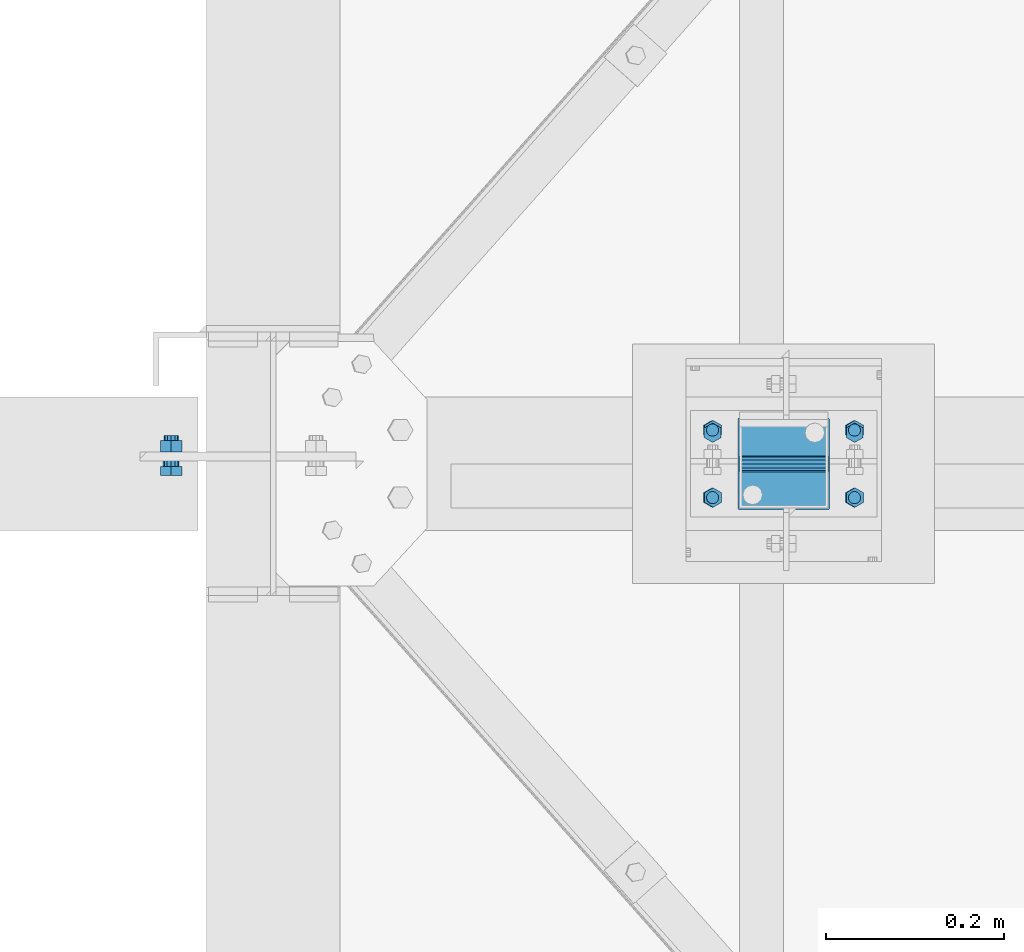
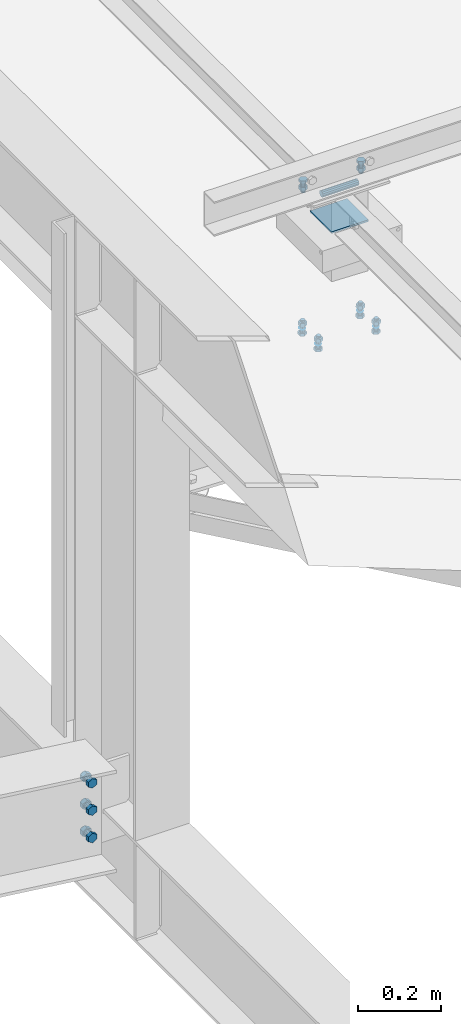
# One storey, part 323 of 3134: 6 mechanical fasteners, 5 elements without a shape of their own.
"""IFC2X3 building model written with IfcOpenShell, lengths in millimetres."""

from ifc_helpers import new_model, si_unit, frame, origin_with_axes, place, context, subcontext, project, spatial, faceted_brep, source, transform, mapped, material, type_object, element, aggregate, save


model = new_model("IFC2X3")

# Units and contexts
model_context = context("Model", 3, precision=1e-05, world=origin_with_axes())
body_context = subcontext(model_context, "Body", "Model", "MODEL_VIEW")
ifc_project = project(units=[si_unit("LENGTHUNIT", "METRE", prefix="MILLI"), si_unit("AREAUNIT", "SQUARE_METRE"), si_unit("VOLUMEUNIT", "CUBIC_METRE"), si_unit("MASSUNIT", "GRAM", prefix="KILO"), si_unit("TIMEUNIT", "SECOND"), si_unit("PLANEANGLEUNIT", "RADIAN"), si_unit("SOLIDANGLEUNIT", "STERADIAN"), si_unit("THERMODYNAMICTEMPERATUREUNIT", "DEGREE_CELSIUS"), si_unit("LUMINOUSINTENSITYUNIT", "LUMEN")], contexts=[model_context])

# Site, building, storey
site_placement = place(None, origin_with_axes())
site = spatial("IfcSite", under=ifc_project, at=site_placement, CompositionType="ELEMENT")
building_placement = place(site_placement, origin_with_axes())
building = spatial("IfcBuilding", under=site, at=building_placement, Name="Undefined", CompositionType="ELEMENT")
storey_placement = place(building_placement, origin_with_axes())
storey = spatial("IfcBuildingStorey", under=building, at=storey_placement, Name="Undefined", CompositionType="ELEMENT", Elevation=0.0)

# Assembly, mechanical fastener
assembly_1_placement = place(storey_placement, origin_with_axes())
assembly_1 = element("IfcElementAssembly", 1, at=assembly_1_placement, inside=storey, AssemblyPlace="NOTDEFINED", PredefinedType="RIGID_FRAME")
ifc_material_1 = material(Name="8.8")
mechanical_fastener_type = type_object("IfcMechanicalFastenerType", Name="Bolt assembly")
shared_shape_1 = source(origin_with_axes(), body_context, "Body", "Brep", [
    faceted_brep([(10.9696551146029, -14.0, 0.0), (5.48482755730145, -14.0, 9.5), (-5.48482755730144, -14.0, 9.5), (-10.9696551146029, -14.0, 1.34339530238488e-15), (-5.48482755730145, -14.0, -9.5), (5.48482755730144, -14.0, -9.50000000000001), (5.48482755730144, -6.0, -9.50000000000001), (-5.48482755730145, -6.0, -9.5), (-10.9696551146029, -6.0, 1.34339530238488e-15), (-5.48482755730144, -6.0, 9.5), (5.48482755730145, -6.0, 9.5), (10.9696551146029, -6.0, 0.0), (6.0, -6.0, 0.0), (5.19615242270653, -6.0, 3.00000000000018), (2.99999999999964, -6.0, 5.19615242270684), (-6.21801588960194e-13, -6.0, 6.0), (-3.00000000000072, -6.0, 5.19615242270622), (-5.19615242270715, -6.0, 2.9999999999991), (-6.0, -6.0, -1.24360317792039e-12), (-5.19615242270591, -6.0, -3.00000000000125), (-2.99999999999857, -6.0, -5.19615242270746), (1.85874342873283e-12, -6.0, -6.0), (3.00000000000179, -6.0, -5.1961524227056), (5.19615242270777, -6.0, -2.99999999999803), (5.19615242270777, 24.0, -2.99999999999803), (3.00000000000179, 24.0, -5.1961524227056), (1.85874342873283e-12, 24.0, -6.0), (-2.99999999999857, 24.0, -5.19615242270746), (-5.19615242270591, 24.0, -3.00000000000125), (-6.0, 24.0, -1.24360317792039e-12), (-5.19615242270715, 24.0, 2.9999999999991), (-3.00000000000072, 24.0, 5.19615242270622), (-6.21801588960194e-13, 24.0, 6.0), (2.99999999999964, 24.0, 5.19615242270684), (5.19615242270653, 24.0, 3.00000000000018), (6.0, 24.0, 0.0), (10.9696551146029, 6.00000000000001, 0.0), (5.48482755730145, 6.00000000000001, 9.5), (-5.48482755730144, 6.00000000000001, 9.5), (-10.9696551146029, 6.00000000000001, 1.34339530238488e-15), (-5.48482755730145, 6.00000000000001, -9.5), (5.48482755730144, 6.00000000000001, -9.50000000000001), (5.48482755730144, 16.0, -9.50000000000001), (-5.48482755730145, 16.0, -9.5), (-10.9696551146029, 16.0, 1.34339530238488e-15), (-5.48482755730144, 16.0, 9.5), (5.48482755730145, 16.0, 9.5), (10.9696551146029, 16.0, 0.0)], [[[0, 1, 2, 3, 4, 5]], [[6, 7, 8, 9, 10, 11]], [[0, 11, 10, 1]], [[1, 10, 9, 2]], [[2, 9, 8, 3]], [[3, 8, 7, 4]], [[4, 7, 6, 5]], [[5, 6, 11, 0]], [[12, 13, 14, 15, 16, 17, 18, 19, 20, 21, 22, 23]], [[24, 25, 26, 27, 28, 29, 30, 31, 32, 33, 34, 35]], [[12, 35, 34, 13]], [[13, 34, 33, 14]], [[14, 33, 32, 15]], [[15, 32, 31, 16]], [[16, 31, 30, 17]], [[17, 30, 29, 18]], [[18, 29, 28, 19]], [[19, 28, 27, 20]], [[20, 27, 26, 21]], [[21, 26, 25, 22]], [[22, 25, 24, 23]], [[23, 24, 35, 12]], [[36, 37, 38, 39, 40, 41]], [[42, 43, 44, 45, 46, 47]], [[36, 47, 46, 37]], [[37, 46, 45, 38]], [[38, 45, 44, 39]], [[39, 44, 43, 40]], [[40, 43, 42, 41]], [[41, 42, 47, 36]]]),
    faceted_brep([(7.0, -0.1, 0.0), (6.06217782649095, -0.1, 3.50000000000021), (3.49999999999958, -0.1, 6.06217782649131), (-7.25435187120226e-13, -0.1, 7.0), (-3.50000000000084, -0.1, 6.06217782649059), (-6.06217782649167, -0.1, 3.49999999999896), (-7.0, -0.1, -1.45087037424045e-12), (-6.06217782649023, -0.1, -3.50000000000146), (-3.49999999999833, -0.1, -6.06217782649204), (2.1685340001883e-12, -0.1, -7.0), (3.50000000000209, -0.1, -6.06217782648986), (6.0621778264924, -0.1, -3.4999999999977), (6.0621778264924, 6.00000000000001, -3.4999999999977), (3.50000000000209, 6.00000000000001, -6.06217782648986), (2.1685340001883e-12, 6.00000000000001, -7.0), (-3.49999999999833, 6.00000000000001, -6.06217782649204), (-6.06217782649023, 6.00000000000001, -3.50000000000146), (-7.0, 6.00000000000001, -1.45087037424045e-12), (-6.06217782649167, 6.00000000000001, 3.49999999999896), (-3.50000000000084, 6.00000000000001, 6.06217782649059), (-7.25435187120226e-13, 6.00000000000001, 7.0), (3.49999999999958, 6.00000000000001, 6.06217782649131), (6.06217782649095, 6.00000000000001, 3.50000000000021), (7.0, 6.00000000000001, 0.0), (7.0, -5.9, 0.0), (6.06217782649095, -5.9, 3.50000000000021), (3.49999999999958, -5.9, 6.06217782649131), (-7.25435187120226e-13, -5.9, 7.0), (-3.50000000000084, -5.9, 6.06217782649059), (-6.06217782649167, -5.9, 3.49999999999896), (-7.0, -5.9, -1.45087037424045e-12), (-6.06217782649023, -5.9, -3.50000000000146), (-3.49999999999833, -5.9, -6.06217782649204), (2.1685340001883e-12, -5.9, -7.0), (3.50000000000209, -5.9, -6.06217782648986), (6.0621778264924, -5.9, -3.4999999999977), (6.0621778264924, 0.0999999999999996, -3.4999999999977), (3.50000000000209, 0.0999999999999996, -6.06217782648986), (2.1685340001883e-12, 0.0999999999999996, -7.0), (-3.49999999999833, 0.0999999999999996, -6.06217782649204), (-6.06217782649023, 0.0999999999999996, -3.50000000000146), (-7.0, 0.0999999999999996, -1.45087037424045e-12), (-6.06217782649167, 0.0999999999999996, 3.49999999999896), (-3.50000000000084, 0.0999999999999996, 6.06217782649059), (-7.25435187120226e-13, 0.0999999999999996, 7.0), (3.49999999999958, 0.0999999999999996, 6.06217782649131), (6.06217782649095, 0.0999999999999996, 3.50000000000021), (7.0, 0.0999999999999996, 0.0)], [[[0, 1, 2, 3, 4, 5, 6, 7, 8, 9, 10, 11]], [[12, 13, 14, 15, 16, 17, 18, 19, 20, 21, 22, 23]], [[0, 23, 22, 1]], [[1, 22, 21, 2]], [[2, 21, 20, 3]], [[3, 20, 19, 4]], [[4, 19, 18, 5]], [[5, 18, 17, 6]], [[6, 17, 16, 7]], [[7, 16, 15, 8]], [[8, 15, 14, 9]], [[9, 14, 13, 10]], [[10, 13, 12, 11]], [[11, 12, 23, 0]], [[24, 25, 26, 27, 28, 29, 30, 31, 32, 33, 34, 35]], [[36, 37, 38, 39, 40, 41, 42, 43, 44, 45, 46, 47]], [[24, 47, 46, 25]], [[25, 46, 45, 26]], [[26, 45, 44, 27]], [[27, 44, 43, 28]], [[28, 43, 42, 29]], [[29, 42, 41, 30]], [[30, 41, 40, 31]], [[31, 40, 39, 32]], [[32, 39, 38, 33]], [[33, 38, 37, 34]], [[34, 37, 36, 35]], [[35, 36, 47, 24]]]),
])
mechanical_fastener_1_placement = place(assembly_1_placement, frame((68125.0, 10045.0, 5850.0), z_axis=(1.0, 0.0, 0.0), x_axis=(0.0, -1.0, 0.0)))
mechanical_fastener_1 = element("IfcMechanicalFastener", 2, at=mechanical_fastener_1_placement, type_object=mechanical_fastener_type, material=ifc_material_1, Name="Bolt assembly", NominalDiameter=12.0, NominalLength=30.0, context=body_context, shape_type="MappedRepresentation", body=[
    mapped(shared_shape_1, transform((0.0, -5.32963895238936e-10, -79.9999999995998))),
    mapped(shared_shape_1, transform((0.0, 5.3114490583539e-10, 79.9999999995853))),
])
aggregate(assembly_1, [mechanical_fastener_1])

assembly_2_placement = place(storey_placement, origin_with_axes())
assembly_2 = element("IfcElementAssembly", 3, at=assembly_2_placement, inside=storey, Name="300", AssemblyPlace="NOTDEFINED", PredefinedType="RIGID_FRAME")
shared_shape_2 = source(origin_with_axes(), body_context, "Body", "Brep", [
    faceted_brep([(13.856406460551, -13.0499999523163, 0.0), (6.92820323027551, -13.0499999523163, 12.0), (-6.92820323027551, -13.0499999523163, 12.0), (-13.856406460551, -13.0499999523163, 1.69692038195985e-15), (-6.92820323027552, -13.0499999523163, -12.0), (6.9282032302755, -13.0499999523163, -12.0), (6.9282032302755, -3.04999995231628, -12.0), (-6.92820323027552, -3.04999995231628, -12.0), (-13.856406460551, -3.04999995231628, 1.69692038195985e-15), (-6.92820323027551, -3.04999995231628, 12.0), (6.92820323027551, -3.04999995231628, 12.0), (13.856406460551, -3.04999995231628, 0.0), (8.0, -3.04999995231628, 0.0), (6.92820323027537, -3.04999995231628, 4.00000000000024), (3.99999999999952, -3.04999995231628, 6.92820323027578), (-8.29068785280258e-13, -3.04999995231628, 8.0), (-4.00000000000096, -3.04999995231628, 6.92820323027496), (-6.9282032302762, -3.04999995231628, 3.99999999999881), (-8.0, -3.04999995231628, -1.65813757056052e-12), (-6.92820323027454, -3.04999995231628, -4.00000000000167), (-3.99999999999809, -3.04999995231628, -6.92820323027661), (2.47832457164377e-12, -3.04999995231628, -8.0), (4.00000000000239, -3.04999995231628, -6.92820323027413), (6.92820323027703, -3.04999995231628, -3.99999999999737), (6.92820323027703, 31.9500000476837, -3.99999999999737), (4.00000000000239, 31.9500000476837, -6.92820323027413), (2.47832457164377e-12, 31.9500000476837, -8.0), (-3.99999999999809, 31.9500000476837, -6.92820323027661), (-6.92820323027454, 31.9500000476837, -4.00000000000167), (-8.0, 31.9500000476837, -1.65813757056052e-12), (-6.9282032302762, 31.9500000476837, 3.99999999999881), (-4.00000000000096, 31.9500000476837, 6.92820323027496), (-8.29068785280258e-13, 31.9500000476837, 8.0), (3.99999999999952, 31.9500000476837, 6.92820323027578), (6.92820323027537, 31.9500000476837, 4.00000000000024), (8.0, 31.9500000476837, 0.0), (13.856406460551, 13.0500000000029, 0.0), (6.92820323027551, 13.0500000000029, 12.0), (-6.92820323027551, 13.0500000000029, 12.0), (-13.856406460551, 13.0500000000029, 1.69692038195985e-15), (-6.92820323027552, 13.0500000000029, -12.0), (6.9282032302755, 13.0500000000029, -12.0), (6.9282032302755, 26.0500000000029, -12.0), (-6.92820323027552, 26.0500000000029, -12.0), (-13.856406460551, 26.0500000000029, 1.69692038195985e-15), (-6.92820323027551, 26.0500000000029, 12.0), (6.92820323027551, 26.0500000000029, 12.0), (13.856406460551, 26.0500000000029, 0.0)], [[[0, 1, 2, 3, 4, 5]], [[6, 7, 8, 9, 10, 11]], [[0, 11, 10, 1]], [[1, 10, 9, 2]], [[2, 9, 8, 3]], [[3, 8, 7, 4]], [[4, 7, 6, 5]], [[5, 6, 11, 0]], [[12, 13, 14, 15, 16, 17, 18, 19, 20, 21, 22, 23]], [[24, 25, 26, 27, 28, 29, 30, 31, 32, 33, 34, 35]], [[12, 35, 34, 13]], [[13, 34, 33, 14]], [[14, 33, 32, 15]], [[15, 32, 31, 16]], [[16, 31, 30, 17]], [[17, 30, 29, 18]], [[18, 29, 28, 19]], [[19, 28, 27, 20]], [[20, 27, 26, 21]], [[21, 26, 25, 22]], [[22, 25, 24, 23]], [[23, 24, 35, 12]], [[36, 37, 38, 39, 40, 41]], [[42, 43, 44, 45, 46, 47]], [[36, 47, 46, 37]], [[37, 46, 45, 38]], [[38, 45, 44, 39]], [[39, 44, 43, 40]], [[40, 43, 42, 41]], [[41, 42, 47, 36]]]),
    faceted_brep([(9.0, 2.95000000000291, 0.0), (7.79422863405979, 2.95000000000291, 4.50000000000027), (4.49999999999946, 2.95000000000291, 7.79422863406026), (-9.3270238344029e-13, 2.95000000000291, 9.0), (-4.50000000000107, 2.95000000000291, 7.79422863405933), (-7.79422863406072, 2.95000000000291, 4.49999999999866), (-9.0, 2.95000000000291, -1.86540476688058e-12), (-7.79422863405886, 2.95000000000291, -4.50000000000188), (-4.49999999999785, 2.95000000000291, -7.79422863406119), (2.78811514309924e-12, 2.95000000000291, -9.0), (4.50000000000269, 2.95000000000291, -7.7942286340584), (7.79422863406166, 2.95000000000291, -4.49999999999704), (7.79422863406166, 13.0500000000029, -4.49999999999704), (4.50000000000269, 13.0500000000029, -7.7942286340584), (2.78811514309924e-12, 13.0500000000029, -9.0), (-4.49999999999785, 13.0500000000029, -7.79422863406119), (-7.79422863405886, 13.0500000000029, -4.50000000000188), (-9.0, 13.0500000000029, -1.86540476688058e-12), (-7.79422863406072, 13.0500000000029, 4.49999999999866), (-4.50000000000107, 13.0500000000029, 7.79422863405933), (-9.3270238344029e-13, 13.0500000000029, 9.0), (4.49999999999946, 13.0500000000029, 7.79422863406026), (7.79422863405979, 13.0500000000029, 4.50000000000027), (9.0, 13.0500000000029, 0.0), (9.0, -2.94999995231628, 0.0), (7.79422863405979, -2.94999995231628, 4.50000000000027), (4.49999999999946, -2.94999995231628, 7.79422863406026), (-9.3270238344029e-13, -2.94999995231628, 9.0), (-4.50000000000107, -2.94999995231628, 7.79422863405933), (-7.79422863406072, -2.94999995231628, 4.49999999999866), (-9.0, -2.94999995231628, -1.86540476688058e-12), (-7.79422863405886, -2.94999995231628, -4.50000000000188), (-4.49999999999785, -2.94999995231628, -7.79422863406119), (2.78811514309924e-12, -2.94999995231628, -9.0), (4.50000000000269, -2.94999995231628, -7.7942286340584), (7.79422863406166, -2.94999995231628, -4.49999999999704), (7.79422863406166, 3.14999995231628, -4.49999999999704), (4.50000000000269, 3.14999995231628, -7.7942286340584), (2.78811514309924e-12, 3.14999995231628, -9.0), (-4.49999999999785, 3.14999995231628, -7.79422863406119), (-7.79422863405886, 3.14999995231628, -4.50000000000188), (-9.0, 3.14999995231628, -1.86540476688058e-12), (-7.79422863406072, 3.14999995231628, 4.49999999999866), (-4.50000000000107, 3.14999995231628, 7.79422863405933), (-9.3270238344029e-13, 3.14999995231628, 9.0), (4.49999999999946, 3.14999995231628, 7.79422863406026), (7.79422863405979, 3.14999995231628, 4.50000000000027), (9.0, 3.14999995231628, 0.0)], [[[0, 1, 2, 3, 4, 5, 6, 7, 8, 9, 10, 11]], [[12, 13, 14, 15, 16, 17, 18, 19, 20, 21, 22, 23]], [[0, 23, 22, 1]], [[1, 22, 21, 2]], [[2, 21, 20, 3]], [[3, 20, 19, 4]], [[4, 19, 18, 5]], [[5, 18, 17, 6]], [[6, 17, 16, 7]], [[7, 16, 15, 8]], [[8, 15, 14, 9]], [[9, 14, 13, 10]], [[10, 13, 12, 11]], [[11, 12, 23, 0]], [[24, 25, 26, 27, 28, 29, 30, 31, 32, 33, 34, 35]], [[36, 37, 38, 39, 40, 41, 42, 43, 44, 45, 46, 47]], [[24, 47, 46, 25]], [[25, 46, 45, 26]], [[26, 45, 44, 27]], [[27, 44, 43, 28]], [[28, 43, 42, 29]], [[29, 42, 41, 30]], [[30, 41, 40, 31]], [[31, 40, 39, 32]], [[32, 39, 38, 33]], [[33, 38, 37, 34]], [[34, 37, 36, 35]], [[35, 36, 47, 24]]]),
])
mechanical_fastener_2_placement = place(assembly_2_placement, frame((67435.0, 10010.0, 4337.44269270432), z_axis=(1.0, 0.0, 0.0), x_axis=(0.0, 0.0, -1.0)))
mechanical_fastener_2 = element("IfcMechanicalFastener", 4, at=mechanical_fastener_2_placement, type_object=mechanical_fastener_type, material=ifc_material_1, Name="Bolt assembly", NominalDiameter=16.0, NominalLength=35.0, context=body_context, shape_type="MappedRepresentation", body=[
    mapped(shared_shape_2, transform((0.0, 0.0, 0.0))),
    mapped(shared_shape_2, transform((80.0, 0.0, 0.0))),
    mapped(shared_shape_2, transform((160.0, 0.0, 0.0))),
])
aggregate(assembly_2, [mechanical_fastener_2])

assembly_3_placement = place(storey_placement, origin_with_axes())
assembly_3 = element("IfcElementAssembly", 5, at=assembly_3_placement, inside=storey, AssemblyPlace="NOTDEFINED", PredefinedType="RIGID_FRAME")
shared_shape_3 = source(origin_with_axes(), body_context, "Body", "Brep", [
    faceted_brep([(7.0, 13.0000253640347, 0.0), (6.06217782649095, 13.0000253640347, 3.50000000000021), (3.49999999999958, 13.0000253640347, 6.06217782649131), (-7.25435187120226e-13, 13.0000253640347, 7.0), (-3.50000000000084, 13.0000253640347, 6.06217782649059), (-6.06217782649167, 13.0000253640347, 3.49999999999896), (-7.0, 13.0000253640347, -1.45087037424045e-12), (-6.06217782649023, 13.0000253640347, -3.50000000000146), (-3.49999999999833, 13.0000253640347, -6.06217782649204), (2.1685340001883e-12, 13.0000253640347, -7.0), (3.50000000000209, 13.0000253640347, -6.06217782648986), (6.0621778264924, 13.0000253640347, -3.4999999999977), (6.0621778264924, 15.0999999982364, -3.4999999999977), (3.50000000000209, 15.0999999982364, -6.06217782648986), (2.1685340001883e-12, 15.0999999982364, -7.0), (-3.49999999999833, 15.0999999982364, -6.06217782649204), (-6.06217782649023, 15.0999999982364, -3.50000000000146), (-7.0, 15.0999999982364, -1.45087037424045e-12), (-6.06217782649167, 15.0999999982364, 3.49999999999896), (-3.50000000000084, 15.0999999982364, 6.06217782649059), (-7.25435187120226e-13, 15.0999999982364, 7.0), (3.49999999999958, 15.0999999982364, 6.06217782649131), (6.06217782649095, 15.0999999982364, 3.50000000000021), (7.0, 15.0999999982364, 0.0)], [[[0, 1, 2, 3, 4, 5, 6, 7, 8, 9, 10, 11]], [[12, 13, 14, 15, 16, 17, 18, 19, 20, 21, 22, 23]], [[0, 23, 22, 1]], [[1, 22, 21, 2]], [[2, 21, 20, 3]], [[3, 20, 19, 4]], [[4, 19, 18, 5]], [[5, 18, 17, 6]], [[6, 17, 16, 7]], [[7, 16, 15, 8]], [[8, 15, 14, 9]], [[9, 14, 13, 10]], [[10, 13, 12, 11]], [[11, 12, 23, 0]]]),
])
mechanical_fastener_3_placement = place(assembly_3_placement, frame((68124.3451187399, 10048.0, 5409.1772055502), z_axis=(-0.99951962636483, 0.0, 0.0309922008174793), x_axis=(0.0, -1.0, 0.0)))
mechanical_fastener_3 = element("IfcMechanicalFastener", 6, at=mechanical_fastener_3_placement, type_object=mechanical_fastener_type, material=ifc_material_1, Name="Bolt assembly", NominalDiameter=12.0, NominalLength=2.0, context=body_context, shape_type="MappedRepresentation", body=[
    mapped(shared_shape_3, transform((0.0, -5.32963895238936e-10, -79.9999999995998))),
    mapped(shared_shape_3, transform((76.0, -5.32963895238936e-10, -79.9999999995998))),
    mapped(shared_shape_3, transform((0.0, 5.3114490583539e-10, 79.9999999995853))),
    mapped(shared_shape_3, transform((76.0, 5.3114490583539e-10, 79.9999999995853))),
])
aggregate(assembly_3, [mechanical_fastener_3])

# Assembly, mechanical fasteners
assembly_4_placement = place(storey_placement, origin_with_axes())
assembly_4 = element("IfcElementAssembly", 7, at=assembly_4_placement, inside=storey, AssemblyPlace="NOTDEFINED", PredefinedType="RIGID_FRAME")
shared_shape_4 = source(origin_with_axes(), body_context, "Body", "Brep", [
    faceted_brep([(9.0, -50.0, 0.0), (7.79422863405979, -50.0, 4.50000000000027), (4.49999999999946, -50.0, 7.79422863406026), (-9.3270238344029e-13, -50.0, 9.0), (-4.50000000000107, -50.0, 7.79422863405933), (-7.79422863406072, -50.0, 4.49999999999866), (-9.0, -50.0, -1.86540476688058e-12), (-7.79422863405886, -50.0, -4.50000000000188), (-4.49999999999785, -50.0, -7.79422863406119), (2.78811514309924e-12, -50.0, -9.0), (4.50000000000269, -50.0, -7.7942286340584), (7.79422863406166, -50.0, -4.49999999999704), (7.79422863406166, 50.1, -4.49999999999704), (4.50000000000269, 50.1, -7.7942286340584), (2.78811514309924e-12, 50.1, -9.0), (-4.49999999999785, 50.1, -7.79422863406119), (-7.79422863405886, 50.1, -4.50000000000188), (-9.0, 50.1, -1.86540476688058e-12), (-7.79422863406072, 50.1, 4.49999999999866), (-4.50000000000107, 50.1, 7.79422863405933), (-9.3270238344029e-13, 50.1, 9.0), (4.49999999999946, 50.1, 7.79422863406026), (7.79422863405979, 50.1, 4.50000000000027), (9.0, 50.1, 0.0)], [[[0, 1, 2, 3, 4, 5, 6, 7, 8, 9, 10, 11]], [[12, 13, 14, 15, 16, 17, 18, 19, 20, 21, 22, 23]], [[0, 23, 22, 1]], [[1, 22, 21, 2]], [[2, 21, 20, 3]], [[3, 20, 19, 4]], [[4, 19, 18, 5]], [[5, 18, 17, 6]], [[6, 17, 16, 7]], [[7, 16, 15, 8]], [[8, 15, 14, 9]], [[9, 14, 13, 10]], [[10, 13, 12, 11]], [[11, 12, 23, 0]]]),
])
mechanical_fastener_4_placement = place(assembly_4_placement, frame((68125.0, 10010.0, 5830.0), z_axis=(0.0, 1.0, 0.0), x_axis=(0.0, 0.0, 1.0)))
mechanical_fastener_4 = element("IfcMechanicalFastener", 8, at=mechanical_fastener_4_placement, type_object=mechanical_fastener_type, material=ifc_material_1, Name="Bolt assembly", NominalDiameter=16.0, NominalLength=100.0, context=body_context, shape_type="MappedRepresentation", body=[
    mapped(shared_shape_4, transform((0.0, 0.0, 0.0))),
])
ifc_material_2 = material(Name="6.8")
shared_shape_5 = source(origin_with_axes(), body_context, "Body", "Brep", [
    faceted_brep([(51.5, 1.36424205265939e-12, 50.0), (51.3858192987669, 1.36424205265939e-12, 50.5740251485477), (51.0606601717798, 1.36424205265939e-12, 51.0606601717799), (50.5740251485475, 1.36424205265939e-12, 51.385819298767), (-50.0000000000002, 1.36424205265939e-12, 51.5), (-50.7500000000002, 1.36424205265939e-12, 51.2990381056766), (-51.2990381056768, 1.36424205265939e-12, 50.7499999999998), (-51.5, 1.36424205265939e-12, 49.9999999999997), (-51.5, 1.36424205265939e-12, -50.0000000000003), (-51.2990381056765, 1.36424205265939e-12, -50.7500000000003), (-50.7499999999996, 1.36424205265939e-12, -51.2990381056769), (-49.9999999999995, 1.36424205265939e-12, -51.5), (50.0000000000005, 1.36424205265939e-12, -51.5), (50.7500000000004, 1.36424205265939e-12, -51.2990381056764), (51.2990381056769, 1.36424205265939e-12, -50.7499999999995), (51.5, 1.36424205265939e-12, -49.9999999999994), (51.5, 5.10000000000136, -49.9999999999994), (51.2990381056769, 5.10000000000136, -50.7499999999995), (50.7500000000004, 5.10000000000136, -51.2990381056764), (50.0000000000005, 5.10000000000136, -51.5), (-49.9999999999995, 5.10000000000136, -51.5), (-50.7499999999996, 5.10000000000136, -51.2990381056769), (-51.2990381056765, 5.10000000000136, -50.7500000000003), (-51.5, 5.10000000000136, -50.0000000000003), (-51.5, 5.10000000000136, 49.9999999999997), (-51.2990381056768, 5.10000000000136, 50.7499999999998), (-50.7500000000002, 5.10000000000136, 51.2990381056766), (-50.0000000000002, 5.10000000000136, 51.5), (50.5740251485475, 5.10000000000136, 51.385819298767), (51.0606601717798, 5.10000000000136, 51.0606601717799), (51.3858192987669, 5.10000000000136, 50.5740251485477), (51.5, 5.10000000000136, 50.0)], [[[0, 1, 2, 3, 4, 5, 6, 7, 8, 9, 10, 11, 12, 13, 14, 15]], [[16, 17, 18, 19, 20, 21, 22, 23, 24, 25, 26, 27, 28, 29, 30, 31]], [[0, 31, 30, 1]], [[1, 30, 29, 2]], [[2, 29, 28, 3]], [[3, 28, 27, 4]], [[4, 27, 26, 5]], [[5, 26, 25, 6]], [[6, 25, 24, 7]], [[7, 24, 23, 8]], [[8, 23, 22, 9]], [[9, 22, 21, 10]], [[10, 21, 20, 11]], [[11, 20, 19, 12]], [[12, 19, 18, 13]], [[13, 18, 17, 14]], [[14, 17, 16, 15]], [[15, 16, 31, 0]]]),
])
mechanical_fastener_5_placement = place(assembly_4_placement, frame((68125.0, 10010.0, 5750.0), z_axis=(0.0, -1.0, 0.0), x_axis=(-1.0, 0.0, 0.0)))
mechanical_fastener_5 = element("IfcMechanicalFastener", 9, at=mechanical_fastener_5_placement, type_object=mechanical_fastener_type, material=ifc_material_2, Name="Bolt assembly", NominalDiameter=10.0, NominalLength=5.0, context=body_context, shape_type="MappedRepresentation", body=[
    mapped(shared_shape_5, transform((0.0, 0.0, 0.0))),
])
aggregate(assembly_4, [mechanical_fastener_4, mechanical_fastener_5])

# Assembly, mechanical fastener
assembly_5_placement = place(storey_placement, origin_with_axes())
assembly_5 = element("IfcElementAssembly", 10, at=assembly_5_placement, inside=storey, Name="300", AssemblyPlace="NOTDEFINED", PredefinedType="RIGID_FRAME")
shared_shape_6 = source(origin_with_axes(), body_context, "Body", "Brep", [
    faceted_brep([(10.9696551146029, -10.2005960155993, 0.0), (5.48482755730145, -10.2005960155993, 9.5), (-5.48482755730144, -10.2005960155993, 9.5), (-10.9696551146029, -10.2005960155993, 1.34339530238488e-15), (-5.48482755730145, -10.2005960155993, -9.5), (5.48482755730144, -10.2005960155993, -9.50000000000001), (5.48482755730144, -2.20059601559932, -9.50000000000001), (-5.48482755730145, -2.20059601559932, -9.5), (-10.9696551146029, -2.20059601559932, 1.34339530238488e-15), (-5.48482755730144, -2.20059601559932, 9.5), (5.48482755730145, -2.20059601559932, 9.5), (10.9696551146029, -2.20059601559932, 0.0), (6.0, -2.20059601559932, 0.0), (5.19615242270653, -2.20059601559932, 3.00000000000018), (2.99999999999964, -2.20059601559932, 5.19615242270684), (-6.21801588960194e-13, -2.20059601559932, 6.0), (-3.00000000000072, -2.20059601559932, 5.19615242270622), (-5.19615242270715, -2.20059601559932, 2.9999999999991), (-6.0, -2.20059601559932, -1.24360317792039e-12), (-5.19615242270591, -2.20059601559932, -3.00000000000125), (-2.99999999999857, -2.20059601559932, -5.19615242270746), (1.85874342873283e-12, -2.20059601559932, -6.0), (3.00000000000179, -2.20059601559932, -5.1961524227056), (5.19615242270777, -2.20059601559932, -2.99999999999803), (5.19615242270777, 32.7994039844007, -2.99999999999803), (3.00000000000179, 32.7994039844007, -5.1961524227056), (1.85874342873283e-12, 32.7994039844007, -6.0), (-2.99999999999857, 32.7994039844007, -5.19615242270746), (-5.19615242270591, 32.7994039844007, -3.00000000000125), (-6.0, 32.7994039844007, -1.24360317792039e-12), (-5.19615242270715, 32.7994039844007, 2.9999999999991), (-3.00000000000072, 32.7994039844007, 5.19615242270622), (-6.21801588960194e-13, 32.7994039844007, 6.0), (2.99999999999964, 32.7994039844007, 5.19615242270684), (5.19615242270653, 32.7994039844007, 3.00000000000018), (6.0, 32.7994039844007, 0.0), (10.9696551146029, 17.0008987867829, 0.0), (5.48482755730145, 17.0008987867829, 9.5), (-5.48482755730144, 17.0008987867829, 9.5), (-10.9696551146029, 17.0008987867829, 1.34339530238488e-15), (-5.48482755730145, 17.0008987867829, -9.5), (5.48482755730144, 17.0008987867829, -9.50000000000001), (5.48482755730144, 27.0008987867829, -9.50000000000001), (-5.48482755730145, 27.0008987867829, -9.5), (-10.9696551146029, 27.0008987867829, 1.34339530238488e-15), (-5.48482755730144, 27.0008987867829, 9.5), (5.48482755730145, 27.0008987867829, 9.5), (10.9696551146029, 27.0008987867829, 0.0)], [[[0, 1, 2, 3, 4, 5]], [[6, 7, 8, 9, 10, 11]], [[0, 11, 10, 1]], [[1, 10, 9, 2]], [[2, 9, 8, 3]], [[3, 8, 7, 4]], [[4, 7, 6, 5]], [[5, 6, 11, 0]], [[12, 13, 14, 15, 16, 17, 18, 19, 20, 21, 22, 23]], [[24, 25, 26, 27, 28, 29, 30, 31, 32, 33, 34, 35]], [[12, 35, 34, 13]], [[13, 34, 33, 14]], [[14, 33, 32, 15]], [[15, 32, 31, 16]], [[16, 31, 30, 17]], [[17, 30, 29, 18]], [[18, 29, 28, 19]], [[19, 28, 27, 20]], [[20, 27, 26, 21]], [[21, 26, 25, 22]], [[22, 25, 24, 23]], [[23, 24, 35, 12]], [[36, 37, 38, 39, 40, 41]], [[42, 43, 44, 45, 46, 47]], [[36, 47, 46, 37]], [[37, 46, 45, 38]], [[38, 45, 44, 39]], [[39, 44, 43, 40]], [[40, 43, 42, 41]], [[41, 42, 47, 36]]]),
    faceted_brep([(7.0, 8.90089878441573, 0.0), (6.06217782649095, 8.90089878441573, 3.50000000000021), (3.49999999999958, 8.90089878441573, 6.06217782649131), (-7.25435187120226e-13, 8.90089878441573, 7.0), (-3.50000000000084, 8.90089878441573, 6.06217782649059), (-6.06217782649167, 8.90089878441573, 3.49999999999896), (-7.0, 8.90089878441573, -1.45087037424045e-12), (-6.06217782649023, 8.90089878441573, -3.50000000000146), (-3.49999999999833, 8.90089878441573, -6.06217782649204), (2.1685340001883e-12, 8.90089878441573, -7.0), (3.50000000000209, 8.90089878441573, -6.06217782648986), (6.0621778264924, 8.90089878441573, -3.4999999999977), (6.0621778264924, 17.0008987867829, -3.4999999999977), (3.50000000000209, 17.0008987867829, -6.06217782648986), (2.1685340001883e-12, 17.0008987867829, -7.0), (-3.49999999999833, 17.0008987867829, -6.06217782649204), (-6.06217782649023, 17.0008987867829, -3.50000000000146), (-7.0, 17.0008987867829, -1.45087037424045e-12), (-6.06217782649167, 17.0008987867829, 3.49999999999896), (-3.50000000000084, 17.0008987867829, 6.06217782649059), (-7.25435187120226e-13, 17.0008987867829, 7.0), (3.49999999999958, 17.0008987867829, 6.06217782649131), (6.06217782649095, 17.0008987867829, 3.50000000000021), (7.0, 17.0008987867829, 0.0), (7.0, -2.10059601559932, 0.0), (6.06217782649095, -2.10059601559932, 3.50000000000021), (3.49999999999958, -2.10059601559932, 6.06217782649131), (-7.25435187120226e-13, -2.10059601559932, 7.0), (-3.50000000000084, -2.10059601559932, 6.06217782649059), (-6.06217782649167, -2.10059601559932, 3.49999999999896), (-7.0, -2.10059601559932, -1.45087037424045e-12), (-6.06217782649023, -2.10059601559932, -3.50000000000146), (-3.49999999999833, -2.10059601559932, -6.06217782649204), (2.1685340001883e-12, -2.10059601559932, -7.0), (3.50000000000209, -2.10059601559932, -6.06217782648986), (6.0621778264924, -2.10059601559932, -3.4999999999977), (6.0621778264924, 7.09940379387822, -3.4999999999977), (3.50000000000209, 7.09940379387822, -6.06217782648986), (2.1685340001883e-12, 7.09940379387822, -7.0), (-3.49999999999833, 7.09940379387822, -6.06217782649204), (-6.06217782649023, 7.09940379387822, -3.50000000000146), (-7.0, 7.09940379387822, -1.45087037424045e-12), (-6.06217782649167, 7.09940379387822, 3.49999999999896), (-3.50000000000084, 7.09940379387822, 6.06217782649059), (-7.25435187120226e-13, 7.09940379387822, 7.0), (3.49999999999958, 7.09940379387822, 6.06217782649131), (6.06217782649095, 7.09940379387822, 3.50000000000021), (7.0, 7.09940379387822, 0.0)], [[[0, 1, 2, 3, 4, 5, 6, 7, 8, 9, 10, 11]], [[12, 13, 14, 15, 16, 17, 18, 19, 20, 21, 22, 23]], [[0, 23, 22, 1]], [[1, 22, 21, 2]], [[2, 21, 20, 3]], [[3, 20, 19, 4]], [[4, 19, 18, 5]], [[5, 18, 17, 6]], [[6, 17, 16, 7]], [[7, 16, 15, 8]], [[8, 15, 14, 9]], [[9, 14, 13, 10]], [[10, 13, 12, 11]], [[11, 12, 23, 0]], [[24, 25, 26, 27, 28, 29, 30, 31, 32, 33, 34, 35]], [[36, 37, 38, 39, 40, 41, 42, 43, 44, 45, 46, 47]], [[24, 47, 46, 25]], [[25, 46, 45, 26]], [[26, 45, 44, 27]], [[27, 44, 43, 28]], [[28, 43, 42, 29]], [[29, 42, 41, 30]], [[30, 41, 40, 31]], [[31, 40, 39, 32]], [[32, 39, 38, 33]], [[33, 38, 37, 34]], [[34, 37, 36, 35]], [[35, 36, 47, 24]]]),
])
mechanical_fastener_6_placement = place(assembly_5_placement, frame((68124.5351187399, 10048.0, 5415.1872055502), z_axis=(-0.99951962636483, 0.0, 0.0309922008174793), x_axis=(0.0, -1.0, 0.0)))
mechanical_fastener_6 = element("IfcMechanicalFastener", 11, at=mechanical_fastener_6_placement, type_object=mechanical_fastener_type, material=ifc_material_1, Name="Bolt assembly", NominalDiameter=12.0, NominalLength=35.0, context=body_context, shape_type="MappedRepresentation", body=[
    mapped(shared_shape_6, transform((0.0, -5.32963895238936e-10, -79.9999999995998))),
    mapped(shared_shape_6, transform((76.0, -5.32963895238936e-10, -79.9999999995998))),
    mapped(shared_shape_6, transform((0.0, 5.3114490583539e-10, 79.9999999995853))),
    mapped(shared_shape_6, transform((76.0, 5.3114490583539e-10, 79.9999999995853))),
])
aggregate(assembly_5, [mechanical_fastener_6])

save(model, "model.ifc")
